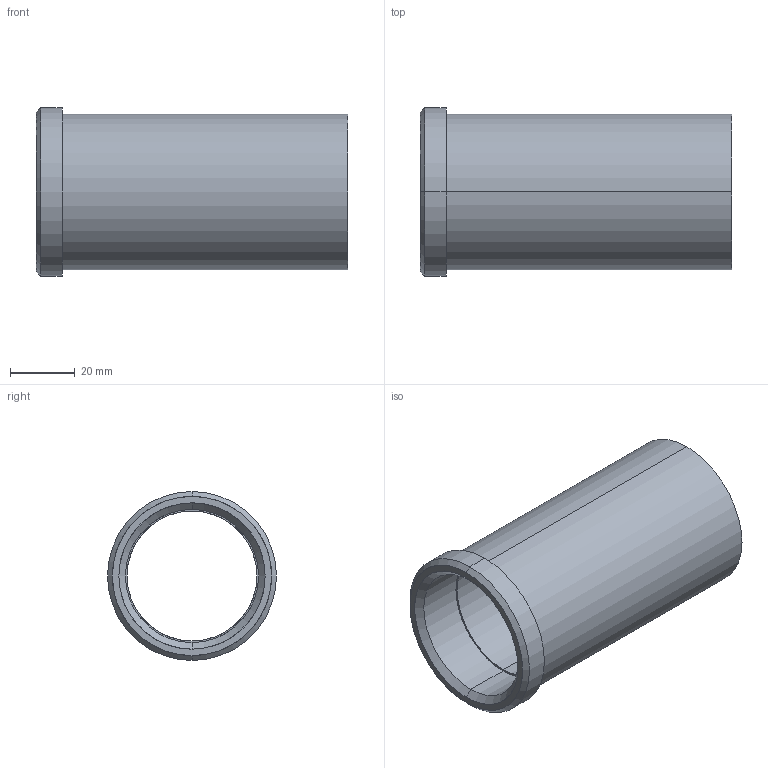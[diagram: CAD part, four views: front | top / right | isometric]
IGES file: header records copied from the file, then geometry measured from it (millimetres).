
Start section: START RECORD GO HERE.
Global section: file name: 353-40X96.igs; native system: DASSAULT SYSTEMES CATIA V5 R20 - www.3ds.com; preprocessor: CATIA Version 5 Release 20 ; author: Utente; organization: NB04-ASUS; date: 20210513.202257; units: millimetre
Bounding box: 96 x 52 x 52 mm (x, y, z)
Surface area: 28026.9 mm2 (no closed solid volume)
Topology: 0 solids, 0 shells, 18 faces, 116 edges, 116 vertices
Faces by surface type: revolution 14, plane 4
